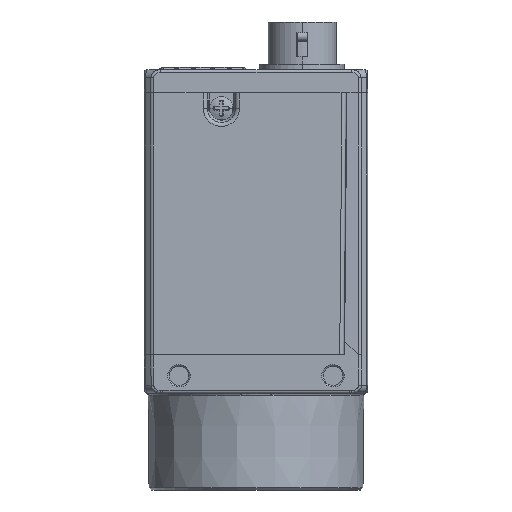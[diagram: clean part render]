
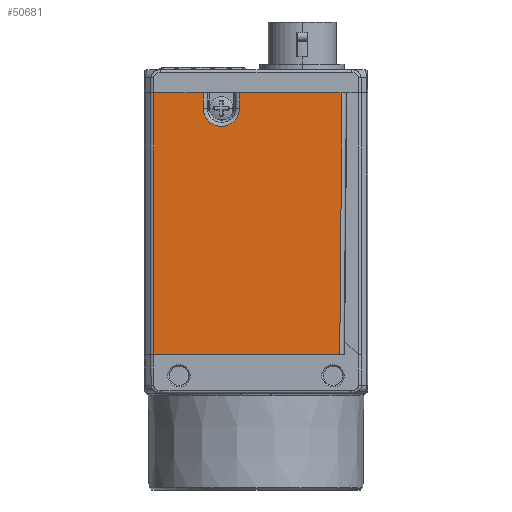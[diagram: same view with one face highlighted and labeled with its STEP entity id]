
A CAD part, left-side view. The second image highlights one B-rep face of the part: STEP entity #50681.
In plain terms, the highlighted planar face has unit normal (-1, 0, 0).
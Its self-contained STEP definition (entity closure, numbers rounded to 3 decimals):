
#12889=DIRECTION('',(0.,1.,0.));
#12890=VECTOR('',#12889,6.435);
#12891=CARTESIAN_POINT('',(-14.5,6.858,
33.5));
#12892=LINE('',#12891,#12890);
#12966=DIRECTION('',(0.,1.,0.));
#12967=VECTOR('',#12966,13.312);
#12968=CARTESIAN_POINT('',(-14.5,-11.17,
33.5));
#12969=LINE('',#12968,#12967);
#12974=CARTESIAN_POINT('',(-14.5,4.5,31.5));
#12975=DIRECTION('',(-1.,0.,0.));
#12976=DIRECTION('',(0.,1.,0.));
#12977=AXIS2_PLACEMENT_3D('',#12974,#12975,#12976);
#12979=DIRECTION('',(0.,0.,1.));
#12980=VECTOR('',#12979,2.);
#12981=CARTESIAN_POINT('',(-14.5,2.142,31.5));
#12982=LINE('',#12981,#12980);
#12983=DIRECTION('',(0.,0.009,-1.));
#12984=VECTOR('',#12983,34.001);
#12985=CARTESIAN_POINT('',(-14.5,-11.17,
33.5));
#12986=LINE('',#12985,#12984);
#13049=DIRECTION('',(0.,-1.,0.));
#13050=VECTOR('',#13049,24.166);
#13051=CARTESIAN_POINT('',(-14.5,13.293,
-0.5));
#13052=LINE('',#13051,#13050);
#13134=DIRECTION('',(0.,0.,-1.));
#13135=VECTOR('',#13134,34.);
#13136=CARTESIAN_POINT('',(-14.5,13.293,
33.5));
#13137=LINE('',#13136,#13135);
#13915=DIRECTION('',(0.,0.,1.));
#13916=VECTOR('',#13915,2.);
#13917=CARTESIAN_POINT('',(-14.5,6.858,31.5));
#13918=LINE('',#13917,#13916);
#26438=CARTESIAN_POINT('',(-14.5,2.142,33.5));
#26439=VERTEX_POINT('',#26438);
#26444=CARTESIAN_POINT('',(-14.5,6.858,33.5));
#26445=VERTEX_POINT('',#26444);
#26550=CARTESIAN_POINT('',(-14.5,-11.17,
33.5));
#26551=VERTEX_POINT('',#26550);
#26552=CARTESIAN_POINT('',(-14.5,2.142,31.5));
#26553=VERTEX_POINT('',#26552);
#26554=CARTESIAN_POINT('',(-14.5,13.293,
33.5));
#26555=CARTESIAN_POINT('',(-14.5,13.293,
-0.5));
#26556=VERTEX_POINT('',#26554);
#26557=VERTEX_POINT('',#26555);
#26558=CARTESIAN_POINT('',(-14.5,6.858,31.5));
#26559=VERTEX_POINT('',#26558);
#26560=CARTESIAN_POINT('',(-14.5,-10.873,
-0.5));
#26561=VERTEX_POINT('',#26560);
#50661=CARTESIAN_POINT('',(-14.5,1.061,16.5));
#50662=DIRECTION('',(1.,0.,0.));
#50663=DIRECTION('',(0.,-1.,0.));
#50664=AXIS2_PLACEMENT_3D('',#50661,#50662,#50663);
#50665=PLANE('',#50664);
#50667=ORIENTED_EDGE('',*,*,#50666,.F.);
#50669=ORIENTED_EDGE('',*,*,#50668,.F.);
#50670=ORIENTED_EDGE('',*,*,#50639,.F.);
#50672=ORIENTED_EDGE('',*,*,#50671,.F.);
#50674=ORIENTED_EDGE('',*,*,#50673,.T.);
#50676=ORIENTED_EDGE('',*,*,#50675,.T.);
#50677=ORIENTED_EDGE('',*,*,#50654,.F.);
#50678=ORIENTED_EDGE('',*,*,#48048,.T.);
#50679=EDGE_LOOP('',(#50667,#50669,#50670,#50672,#50674,#50676,#50677,#50678));
#50680=FACE_OUTER_BOUND('',#50679,.F.);
#50681=ADVANCED_FACE('',(#50680),#50665,.F.);
#12978=CIRCLE('',#12977,2.358);
#48048=EDGE_CURVE('',#26551,#26561,#12986,.T.);
#50639=EDGE_CURVE('',#26445,#26556,#12892,.T.);
#50654=EDGE_CURVE('',#26551,#26439,#12969,.T.);
#50666=EDGE_CURVE('',#26557,#26561,#13052,.T.);
#50668=EDGE_CURVE('',#26556,#26557,#13137,.T.);
#50671=EDGE_CURVE('',#26559,#26445,#13918,.T.);
#50673=EDGE_CURVE('',#26559,#26553,#12978,.T.);
#50675=EDGE_CURVE('',#26553,#26439,#12982,.T.);
